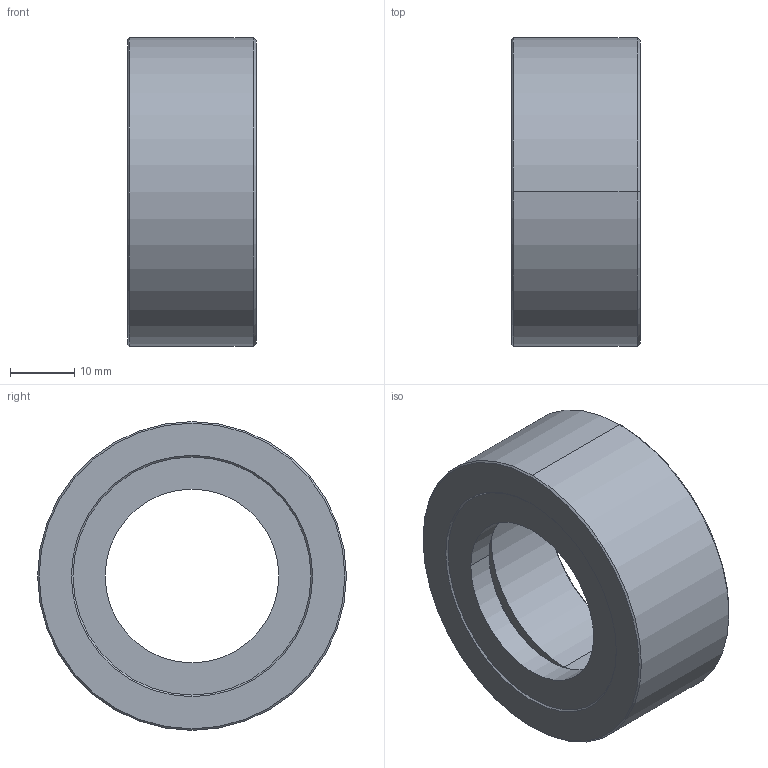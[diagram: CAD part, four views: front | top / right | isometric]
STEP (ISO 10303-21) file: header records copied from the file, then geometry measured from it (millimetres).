
FILE_DESCRIPTION (( 'STEP AP214' ), '1' );
FILE_NAME ('PLL01-27.STEP', '2011-01-05T11:15:42', ( '' ), ( '' ), 'SwSTEP 2.0', 'SolidWorks 2010', '' );
FILE_SCHEMA (( 'AUTOMOTIVE_DESIGN' ));
Length unit declared in the file: millimetre
Products named in the file (1): PLL01-27
Bounding box: 20 x 48 x 48 mm (x, y, z)
Volume: 19778.8 mm3; surface area: 8313.2 mm2
Topology: 1 solids, 1 shells, 37 faces, 82 edges, 46 vertices
Faces by surface type: cylinder 16, cone 16, plane 5
Entity records: 1096 total; most frequent: DIRECTION 192, CARTESIAN_POINT 158, ORIENTED_EDGE 148, AXIS2_PLACEMENT_3D 80, EDGE_CURVE 74, EDGE_LOOP 46, VERTEX_POINT 46, CIRCLE 42
